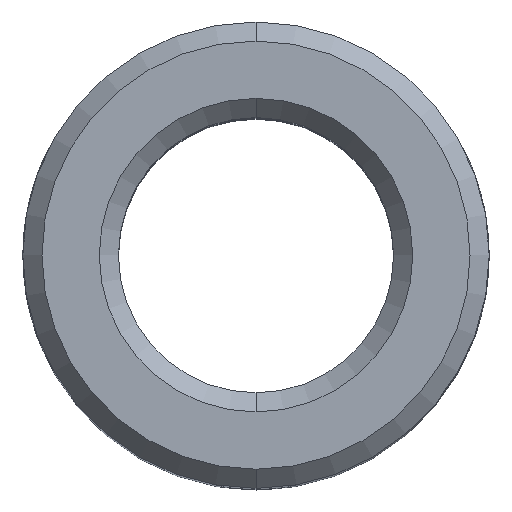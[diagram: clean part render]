
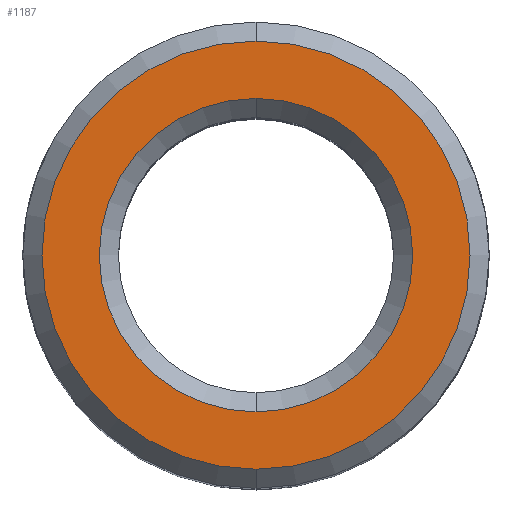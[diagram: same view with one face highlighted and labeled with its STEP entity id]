
A CAD part, top view. The second image highlights one B-rep face of the part: STEP entity #1187.
In plain terms, the highlighted planar face has unit normal (0, 0, 1).
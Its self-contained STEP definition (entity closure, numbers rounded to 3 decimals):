
#10 = CARTESIAN_POINT ( 'NONE',  ( 0., -41., 0. ) ) ;
#88 = ORIENTED_EDGE ( 'NONE', *, *, #1091, .T. ) ;
#160 = CARTESIAN_POINT ( 'NONE',  ( 0., 56., 0. ) ) ;
#201 = VERTEX_POINT ( 'NONE', #160 ) ;
#230 = CARTESIAN_POINT ( 'NONE',  ( 0., -56., 0. ) ) ;
#256 = AXIS2_PLACEMENT_3D ( 'NONE', #1148, #518, #534 ) ;
#313 = VERTEX_POINT ( 'NONE', #230 ) ;
#357 = AXIS2_PLACEMENT_3D ( 'NONE', #528, #538, #1362 ) ;
#433 = CARTESIAN_POINT ( 'NONE',  ( 0., 0., 0. ) ) ;
#434 = AXIS2_PLACEMENT_3D ( 'NONE', #657, #604, #615 ) ;
#438 = DIRECTION ( 'NONE',  ( 0., 0., 1. ) ) ;
#441 = FACE_BOUND ( 'NONE', #692, .T. ) ;
#455 = DIRECTION ( 'NONE',  ( 0., 1., 0. ) ) ;
#470 = CARTESIAN_POINT ( 'NONE',  ( 0., 41., 0. ) ) ;
#471 = PLANE ( 'NONE',  #256 ) ;
#510 = FACE_OUTER_BOUND ( 'NONE', #853, .T. ) ;
#518 = DIRECTION ( 'NONE',  ( 0., 0., -1. ) ) ;
#528 = CARTESIAN_POINT ( 'NONE',  ( 0., 0., 0. ) ) ;
#529 = AXIS2_PLACEMENT_3D ( 'NONE', #1230, #1235, #1242 ) ;
#534 = DIRECTION ( 'NONE',  ( 0., 1., 0. ) ) ;
#538 = DIRECTION ( 'NONE',  ( 0., 0., -1. ) ) ;
#572 = ORIENTED_EDGE ( 'NONE', *, *, #1036, .T. ) ;
#593 = CIRCLE ( 'NONE', #434, 56. ) ;
#604 = DIRECTION ( 'NONE',  ( 0., 0., 1. ) ) ;
#615 = DIRECTION ( 'NONE',  ( 0., 1., 0. ) ) ;
#657 = CARTESIAN_POINT ( 'NONE',  ( 0., 0., 0. ) ) ;
#692 = EDGE_LOOP ( 'NONE', ( #572, #741 ) ) ;
#741 = ORIENTED_EDGE ( 'NONE', *, *, #1152, .T. ) ;
#759 = AXIS2_PLACEMENT_3D ( 'NONE', #433, #438, #455 ) ;
#811 = EDGE_CURVE ( 'NONE', #201, #313, #1218, .T. ) ;
#834 = VERTEX_POINT ( 'NONE', #470 ) ;
#853 = EDGE_LOOP ( 'NONE', ( #1100, #88 ) ) ;
#920 = CIRCLE ( 'NONE', #529, 41. ) ;
#1036 = EDGE_CURVE ( 'NONE', #1112, #834, #920, .T. ) ;
#1091 = EDGE_CURVE ( 'NONE', #313, #201, #593, .T. ) ;
#1100 = ORIENTED_EDGE ( 'NONE', *, *, #811, .T. ) ;
#1112 = VERTEX_POINT ( 'NONE', #10 ) ;
#1148 = CARTESIAN_POINT ( 'NONE',  ( 0., 36., 0. ) ) ;
#1152 = EDGE_CURVE ( 'NONE', #834, #1112, #1341, .T. ) ;
#1187 = ADVANCED_FACE ( 'NONE', ( #441, #510 ), #471, .F. ) ;
#1218 = CIRCLE ( 'NONE', #759, 56. ) ;
#1230 = CARTESIAN_POINT ( 'NONE',  ( 0., 0., 0. ) ) ;
#1235 = DIRECTION ( 'NONE',  ( 0., 0., -1. ) ) ;
#1242 = DIRECTION ( 'NONE',  ( 0., 1., 0. ) ) ;
#1341 = CIRCLE ( 'NONE', #357, 41. ) ;
#1362 = DIRECTION ( 'NONE',  ( 0., 1., 0. ) ) ;
